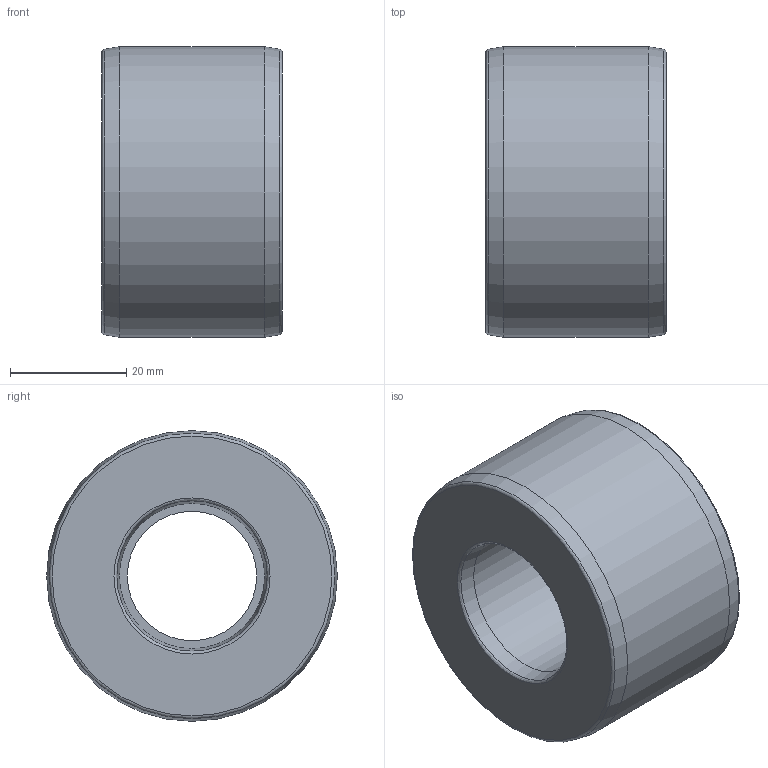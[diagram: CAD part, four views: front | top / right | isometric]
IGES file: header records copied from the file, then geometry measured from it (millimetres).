
Global section: file name: 050900050025.ipt; native system: Autodesk Inventor 2015; preprocessor: unknown; author: KIM; date: 20171207.165107; units: millimetre
Bounding box: 31 x 50 x 50 mm (x, y, z)
Volume: 44384.8 mm3; surface area: 9914.8 mm2
Topology: 1 solids, 1 shells, 15 faces, 43 edges, 31 vertices
Faces by surface type: revolution 9, plane 3, cone 2, cylinder 1
Full cylindrical faces by diameter (mm): 50 x1
